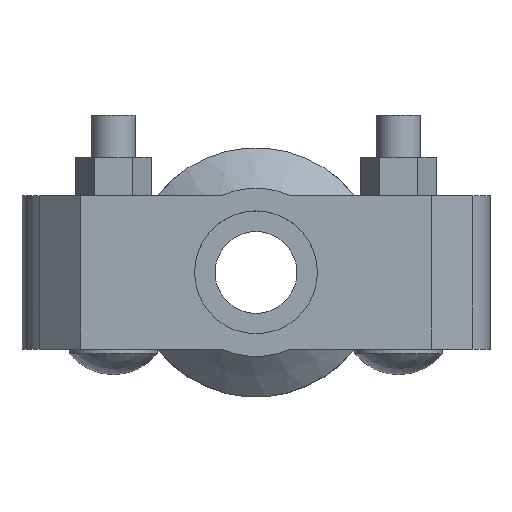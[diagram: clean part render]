
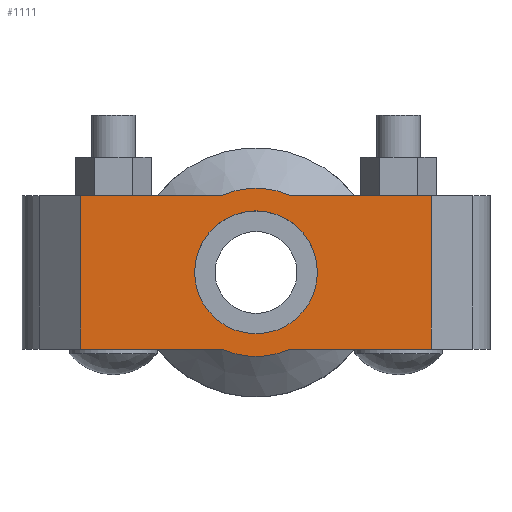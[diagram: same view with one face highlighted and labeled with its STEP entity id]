
A CAD part, top view. The second image highlights one B-rep face of the part: STEP entity #1111.
In plain terms, the highlighted planar face has unit normal (0, 0, 1).
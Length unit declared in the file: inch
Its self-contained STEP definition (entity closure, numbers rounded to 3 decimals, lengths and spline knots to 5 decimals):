
#75=FACE_BOUND('',#226,.T.);
#105=PLANE('',#1226);
#153=FACE_OUTER_BOUND('',#225,.T.);
#225=EDGE_LOOP('',(#888,#889,#890,#891,#892,#893,#894,#895));
#226=EDGE_LOOP('',(#896));
#298=LINE('',#1752,#385);
#313=LINE('',#1811,#400);
#321=LINE('',#1841,#408);
#323=LINE('',#1844,#410);
#324=LINE('',#1849,#411);
#325=LINE('',#1850,#412);
#385=VECTOR('',#1433,0.3937);
#400=VECTOR('',#1468,0.3937);
#408=VECTOR('',#1488,0.3937);
#410=VECTOR('',#1492,0.3937);
#411=VECTOR('',#1497,0.3937);
#412=VECTOR('',#1498,0.3937);
#437=CIRCLE('',#1183,0.525);
#453=CIRCLE('',#1227,0.719);
#454=CIRCLE('',#1228,0.719);
#480=VERTEX_POINT('',#1644);
#515=VERTEX_POINT('',#1749);
#516=VERTEX_POINT('',#1751);
#537=VERTEX_POINT('',#1806);
#538=VERTEX_POINT('',#1810);
#547=VERTEX_POINT('',#1836);
#548=VERTEX_POINT('',#1840);
#549=VERTEX_POINT('',#1846);
#550=VERTEX_POINT('',#1848);
#581=EDGE_CURVE('',#480,#480,#437,.T.);
#632=EDGE_CURVE('',#516,#515,#298,.T.);
#657=EDGE_CURVE('',#538,#537,#313,.T.);
#670=EDGE_CURVE('',#548,#547,#321,.T.);
#672=EDGE_CURVE('',#548,#515,#323,.T.);
#673=EDGE_CURVE('',#547,#549,#453,.T.);
#674=EDGE_CURVE('',#549,#550,#324,.T.);
#675=EDGE_CURVE('',#538,#550,#325,.T.);
#676=EDGE_CURVE('',#537,#516,#454,.T.);
#888=ORIENTED_EDGE('',*,*,#672,.F.);
#889=ORIENTED_EDGE('',*,*,#670,.T.);
#890=ORIENTED_EDGE('',*,*,#673,.T.);
#891=ORIENTED_EDGE('',*,*,#674,.T.);
#892=ORIENTED_EDGE('',*,*,#675,.F.);
#893=ORIENTED_EDGE('',*,*,#657,.T.);
#894=ORIENTED_EDGE('',*,*,#676,.T.);
#895=ORIENTED_EDGE('',*,*,#632,.T.);
#896=ORIENTED_EDGE('',*,*,#581,.T.);
#1111=ADVANCED_FACE('',(#153,#75),#105,.T.);
#1183=AXIS2_PLACEMENT_3D('',#1646,#1337,#1338);
#1226=AXIS2_PLACEMENT_3D('',#1845,#1493,#1494);
#1227=AXIS2_PLACEMENT_3D('',#1847,#1495,#1496);
#1228=AXIS2_PLACEMENT_3D('',#1851,#1499,#1500);
#1337=DIRECTION('center_axis',(0.,0.,-1.));
#1338=DIRECTION('ref_axis',(1.,0.,0.));
#1433=DIRECTION('',(1.,0.,0.));
#1468=DIRECTION('',(1.,0.,0.));
#1488=DIRECTION('',(-1.,0.,0.));
#1492=DIRECTION('',(0.,-1.,0.));
#1493=DIRECTION('center_axis',(0.,0.,1.));
#1494=DIRECTION('ref_axis',(-1.,0.,0.));
#1495=DIRECTION('center_axis',(0.,0.,1.));
#1496=DIRECTION('ref_axis',(1.,0.,0.));
#1497=DIRECTION('',(-1.,0.,0.));
#1498=DIRECTION('',(0.,1.,0.));
#1499=DIRECTION('center_axis',(0.,0.,1.));
#1500=DIRECTION('ref_axis',(1.,0.,0.));
#1644=CARTESIAN_POINT('',(-0.525,0.,0.875));
#1646=CARTESIAN_POINT('Origin',(0.,0.,0.875));
#1749=CARTESIAN_POINT('',(1.5,-0.656,0.875));
#1751=CARTESIAN_POINT('',(0.29432,-0.656,0.875));
#1752=CARTESIAN_POINT('',(-2.,-0.656,0.875));
#1806=CARTESIAN_POINT('',(-0.29432,-0.656,0.875));
#1810=CARTESIAN_POINT('',(-1.5,-0.656,0.875));
#1811=CARTESIAN_POINT('',(-2.,-0.656,0.875));
#1836=CARTESIAN_POINT('',(0.29432,0.656,0.875));
#1840=CARTESIAN_POINT('',(1.5,0.656,0.875));
#1841=CARTESIAN_POINT('',(2.,0.656,0.875));
#1844=CARTESIAN_POINT('',(1.5,-0.328,0.875));
#1845=CARTESIAN_POINT('Origin',(0.,0.,
0.875));
#1846=CARTESIAN_POINT('',(-0.29432,0.656,0.875));
#1847=CARTESIAN_POINT('Origin',(0.,0.,0.875));
#1848=CARTESIAN_POINT('',(-1.5,0.656,0.875));
#1849=CARTESIAN_POINT('',(2.,0.656,0.875));
#1850=CARTESIAN_POINT('',(-1.5,0.328,0.875));
#1851=CARTESIAN_POINT('Origin',(0.,0.,0.875));
